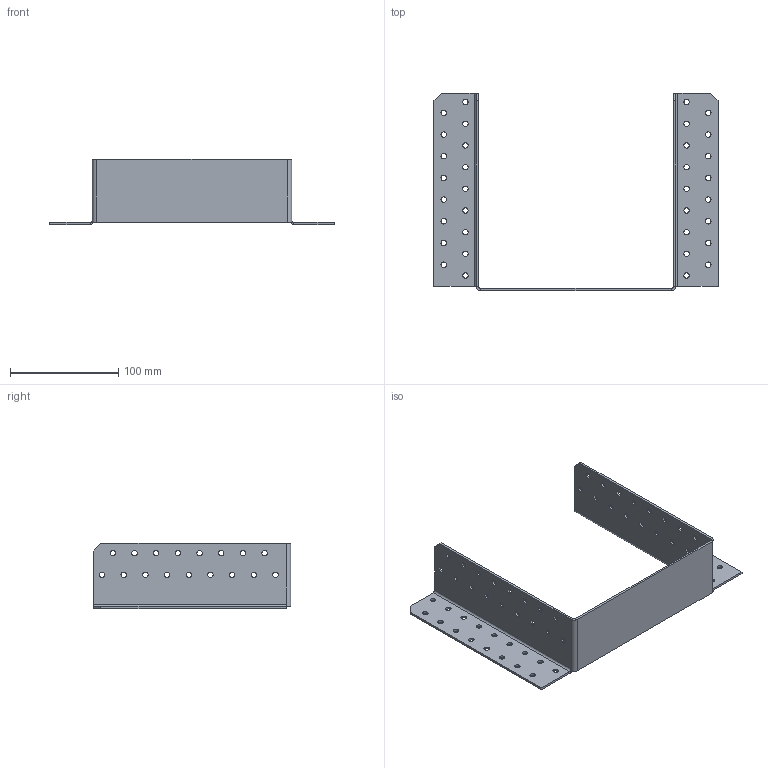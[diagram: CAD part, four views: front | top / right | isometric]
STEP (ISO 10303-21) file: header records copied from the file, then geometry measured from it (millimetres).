
FILE_DESCRIPTION (( 'STEP AP203' ), '1' );
FILE_NAME ('405422.STEP', '2021-04-17T17:35:55', ( '' ), ( '' ), 'SwSTEP 2.0', 'SolidWorks 2013', '' );
FILE_SCHEMA (( 'CONFIG_CONTROL_DESIGN' ));
Length unit declared in the file: millimetre
Products named in the file (1): 405422
Bounding box: 262 x 182 x 60 mm (x, y, z)
Volume: 88214.1 mm3; surface area: 93034.4 mm2
Topology: 1 solids, 1 shells, 180 faces, 504 edges, 326 vertices
Faces by surface type: cylinder 144, plane 36
Entity records: 6267 total; most frequent: DIRECTION 1156, CARTESIAN_POINT 1011, ORIENTED_EDGE 1008, EDGE_CURVE 504, AXIS2_PLACEMENT_3D 471, VERTEX_POINT 326, EDGE_LOOP 316, CIRCLE 290
